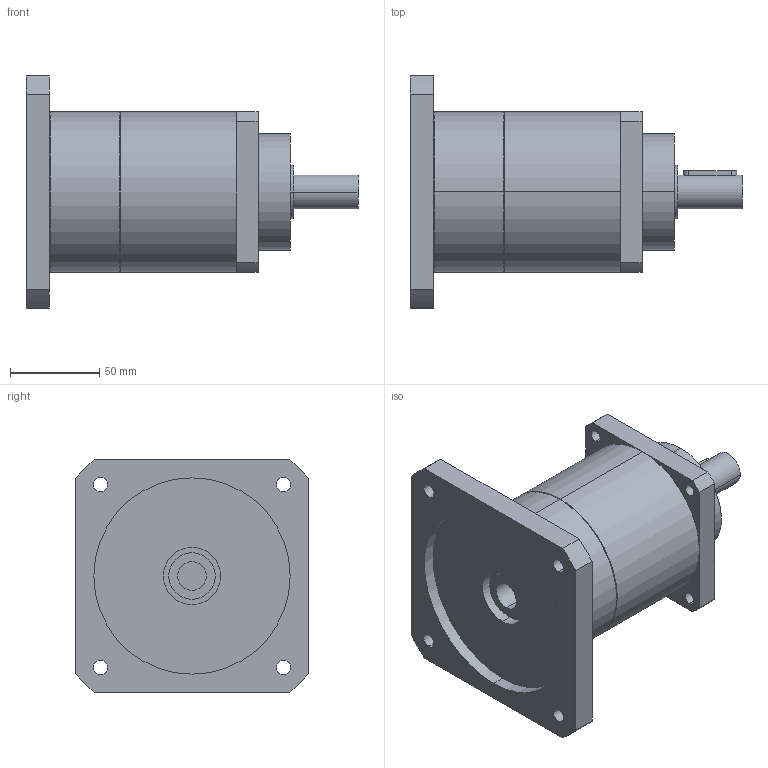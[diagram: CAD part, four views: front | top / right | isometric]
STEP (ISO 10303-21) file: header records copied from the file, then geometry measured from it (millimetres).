
FILE_DESCRIPTION(('CoCreate Modeling STEP Export'),'2;1');
FILE_NAME('GPT90_ig-9-12-16-20-25-28-35-40-50-70-100_19_B5T_16_P33.stp','2015-02-04T11:32:20',(''),(''),'CoCreate Modeling STEP processor for AP214 (Solid Model)','CoCreate Modeling 16.00C 25-Feb-2009 (C) Parametric Technology GmbH','');
FILE_SCHEMA(('AUTOMOTIVE_DESIGN { 1 0 10303 214 1 1 1 1 }'));
Length unit declared in the file: millimetre
Products named in the file (2): GPT90_ig-9-12-16-20-25-28-35-40-50-70-100_19_B5T_16_P33
Assembly tree (1 placements, depth 2):
  GPT90_ig-9-12-16-20-25-28-35-40-50-70-100_19_B5T_16_P33
    GPT90_ig-9-12-16-20-25-28-35-40-50-70-100_19_B5T_16_P33
Bounding box: 186 x 130 x 130 mm (x, y, z)
Volume: 971697.1 mm3; surface area: 90663.7 mm2
Topology: 1 solids, 1 shells, 77 faces, 206 edges, 141 vertices
Faces by surface type: cylinder 46, plane 27, cone 4
Entity records: 2596 total; most frequent: CARTESIAN_POINT 742, ORIENTED_EDGE 412, DIRECTION 324, EDGE_CURVE 206, VERTEX_POINT 141, AXIS2_PLACEMENT_3D 120, EDGE_LOOP 103, VECTOR 84
